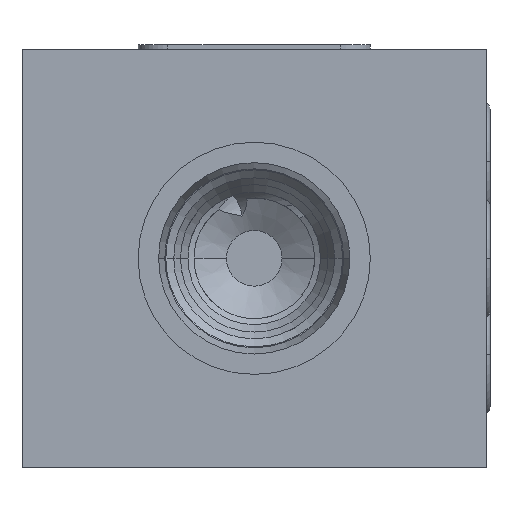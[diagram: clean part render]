
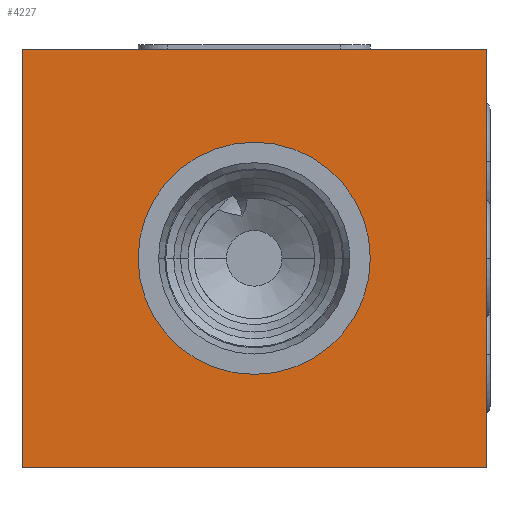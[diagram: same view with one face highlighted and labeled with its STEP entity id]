
A CAD part, left-side view. The second image highlights one B-rep face of the part: STEP entity #4227.
In plain terms, the highlighted planar face has unit normal (-1, 0, 0).
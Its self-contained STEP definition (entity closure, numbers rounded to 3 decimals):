
#56=DIRECTION('',(0.,0.,-1.));
#57=VECTOR('',#56,45.);
#58=CARTESIAN_POINT('',(0.,0.,0.));
#59=LINE('',#58,#57);
#63=DIRECTION('',(0.,1.,0.));
#64=VECTOR('',#63,50.);
#65=CARTESIAN_POINT('',(0.,0.,-45.));
#66=LINE('',#65,#64);
#70=DIRECTION('',(0.,0.,1.));
#71=VECTOR('',#70,45.);
#72=CARTESIAN_POINT('',(0.,50.,-45.));
#73=LINE('',#72,#71);
#77=DIRECTION('',(0.,-1.,0.));
#78=VECTOR('',#77,50.);
#79=CARTESIAN_POINT('',(0.,50.,0.));
#80=LINE('',#79,#78);
#84=CARTESIAN_POINT('',(0.,25.,-22.5));
#85=DIRECTION('',(1.,0.,0.));
#86=DIRECTION('',(0.,-1.,0.));
#87=AXIS2_PLACEMENT_3D('',#84,#85,#86);
#92=CARTESIAN_POINT('',(0.,25.,-22.5));
#93=DIRECTION('',(1.,0.,0.));
#94=DIRECTION('',(0.,1.,0.));
#95=AXIS2_PLACEMENT_3D('',#92,#93,#94);
#3856=CARTESIAN_POINT('',(0.,0.,0.));
#3857=CARTESIAN_POINT('',(0.,0.,-45.));
#3858=VERTEX_POINT('',#3856);
#3859=VERTEX_POINT('',#3857);
#3860=CARTESIAN_POINT('',(0.,50.,-45.));
#3861=VERTEX_POINT('',#3860);
#3862=CARTESIAN_POINT('',(0.,50.,0.));
#3863=VERTEX_POINT('',#3862);
#4018=CARTESIAN_POINT('',(0.,12.5,-22.5));
#4019=VERTEX_POINT('',#4018);
#4020=CARTESIAN_POINT('',(0.,37.5,-22.5));
#4021=VERTEX_POINT('',#4020);
#4206=CARTESIAN_POINT('',(0.,0.,0.));
#4207=DIRECTION('',(1.,0.,0.));
#4208=DIRECTION('',(0.,0.,-1.));
#4209=AXIS2_PLACEMENT_3D('',#4206,#4207,#4208);
#4210=PLANE('',#4209);
#4212=ORIENTED_EDGE('',*,*,#4211,.T.);
#4214=ORIENTED_EDGE('',*,*,#4213,.T.);
#4216=ORIENTED_EDGE('',*,*,#4215,.T.);
#4218=ORIENTED_EDGE('',*,*,#4217,.T.);
#4219=EDGE_LOOP('',(#4212,#4214,#4216,#4218));
#4220=FACE_OUTER_BOUND('',#4219,.F.);
#4222=ORIENTED_EDGE('',*,*,#4221,.F.);
#4224=ORIENTED_EDGE('',*,*,#4223,.F.);
#4225=EDGE_LOOP('',(#4222,#4224));
#4226=FACE_BOUND('',#4225,.F.);
#88=CIRCLE('',#87,12.5);
#96=CIRCLE('',#95,12.5);
#4211=EDGE_CURVE('',#3858,#3859,#59,.T.);
#4213=EDGE_CURVE('',#3859,#3861,#66,.T.);
#4215=EDGE_CURVE('',#3861,#3863,#73,.T.);
#4217=EDGE_CURVE('',#3863,#3858,#80,.T.);
#4221=EDGE_CURVE('',#4019,#4021,#88,.T.);
#4223=EDGE_CURVE('',#4021,#4019,#96,.T.);
#4227=ADVANCED_FACE('',(#4220,#4226),#4210,.F.);
